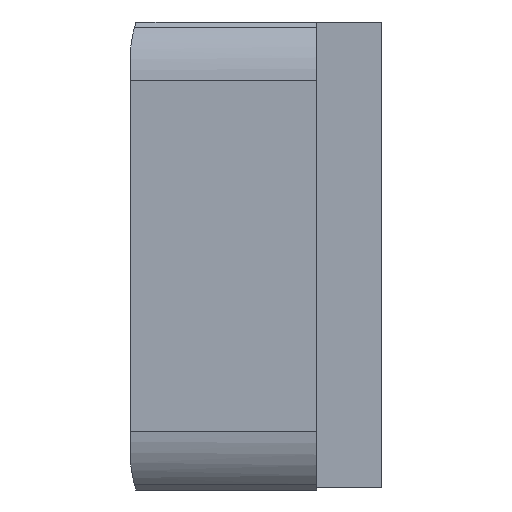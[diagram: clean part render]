
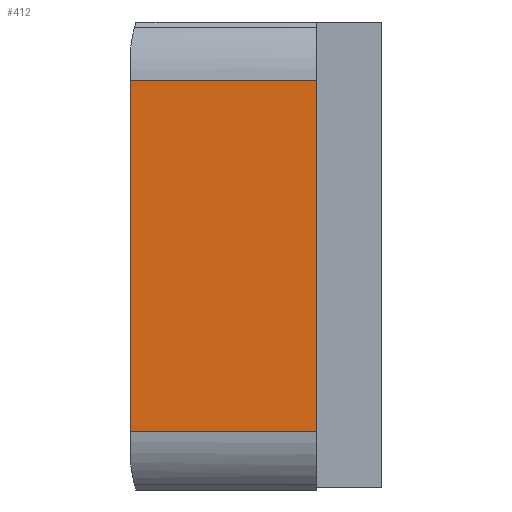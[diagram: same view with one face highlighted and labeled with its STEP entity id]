
A CAD part, left-side view. The second image highlights one B-rep face of the part: STEP entity #412.
In plain terms, the highlighted planar face has unit normal (-1, 0, 0).
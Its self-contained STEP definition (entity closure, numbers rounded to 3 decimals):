
#113=CARTESIAN_POINT('',(-31.997,3.,12.591));
#114=VERTEX_POINT('',#113);
#117=CARTESIAN_POINT('',(-31.997,3.,14.4));
#118=DIRECTION('',(0.,0.,1.));
#119=VECTOR('',#118,1.);
#120=LINE('',#117,#119);
#121=CARTESIAN_POINT('',(-31.997,3.,1.809));
#122=VERTEX_POINT('',#121);
#123=EDGE_CURVE('',#122,#114,#120,.T.);
#382=CARTESIAN_POINT('',(-31.997,6.8,14.4));
#383=DIRECTION('',(1.,0.,0.));
#384=DIRECTION('',(0.,0.,-1.));
#385=AXIS2_PLACEMENT_3D('',#382,#383,#384);
#386=PLANE('',#385);
#387=CARTESIAN_POINT('',(-31.997,8.732,12.591));
#388=DIRECTION('',(0.,-1.,0.));
#389=VECTOR('',#388,1.);
#390=LINE('',#387,#389);
#391=CARTESIAN_POINT('',(-31.997,8.732,12.591));
#392=VERTEX_POINT('',#391);
#393=EDGE_CURVE('',#392,#114,#390,.T.);
#394=ORIENTED_EDGE('',*,*,#393,.F.);
#395=CARTESIAN_POINT('',(-31.997,8.732,18.388));
#396=DIRECTION('',(0.,0.,-1.));
#397=VECTOR('',#396,1.);
#398=LINE('',#395,#397);
#399=CARTESIAN_POINT('',(-31.997,8.732,1.809));
#400=VERTEX_POINT('',#399);
#401=EDGE_CURVE('',#392,#400,#398,.T.);
#402=ORIENTED_EDGE('',*,*,#401,.T.);
#403=CARTESIAN_POINT('',(-31.997,8.732,1.809));
#404=DIRECTION('',(0.,-1.,0.));
#405=VECTOR('',#404,1.);
#406=LINE('',#403,#405);
#407=EDGE_CURVE('',#122,#400,#406,.F.);
#408=ORIENTED_EDGE('',*,*,#407,.F.);
#409=ORIENTED_EDGE('',*,*,#123,.T.);
#410=EDGE_LOOP('',(#394,#402,#408,#409));
#411=FACE_OUTER_BOUND('',#410,.T.);
#412=ADVANCED_FACE('',(#411),#386,.F.);
